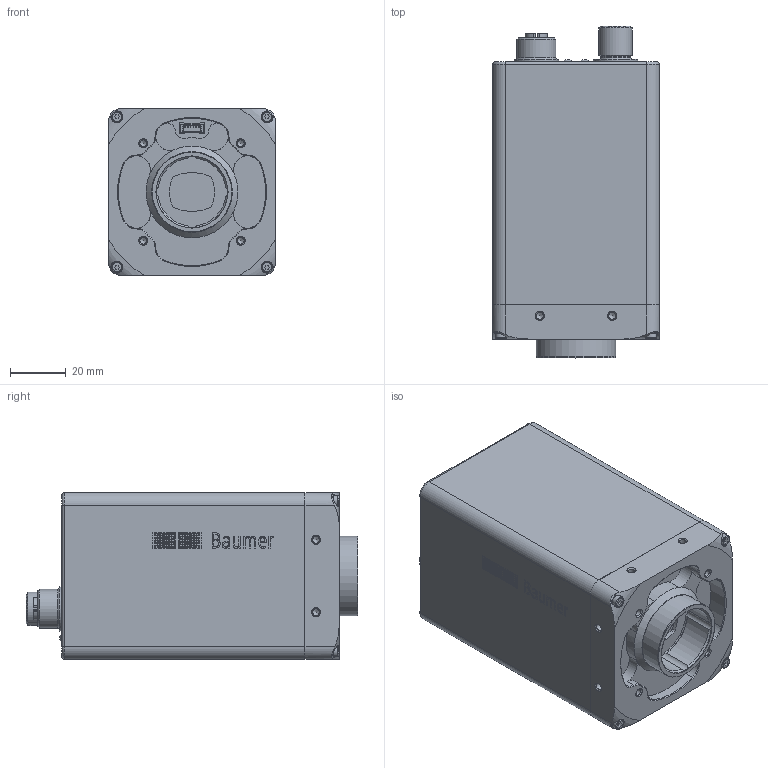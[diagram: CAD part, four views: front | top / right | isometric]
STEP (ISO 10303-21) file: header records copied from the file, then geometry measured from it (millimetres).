
FILE_DESCRIPTION( ( '11194256' ), '1' );
FILE_NAME( 'Z:/entw/Konstruktion/Mcad/Solid Edge/11190000/Step/11194256_VLXT-50C.I.stp', '180920', ( 'uge' ), ( 'Unknown' ), 'PSStep 19.0.9', 'Unknown', ' ' );
FILE_SCHEMA( ( 'AUTOMOTIVE_DESIGN { 1 0 10303 214 1 1 1 1 }' ) );
Length unit declared in the file: millimetre
Products named in the file (1): M12-ST-12S-A-PIP_2130000
Bounding box: 60 x 119.33 x 60 mm (x, y, z)
Volume: 347704.9 mm3; surface area: 40243.5 mm2
Topology: 1 solids, 7 shells, 1498 faces, 3378 edges, 2216 vertices
Faces by surface type: plane 674, cylinder 608, torus 71, cone 66, extrusion 56, sphere 16, bspline 7
Full cylindrical faces by diameter (mm): 0.306 x20, 0.385 x20, 0.464 x20, 0.542 x20, 0.621 x20, 0.63 x12, 0.699 x20, 0.7 x8, 0.778 x20, 0.856 x20, 1.24 x8, 2 x4, 2.4 x4, 2.459 x28, 2.8 x2, 2.92 x2, 3.4 x2, 3.8 x4, 4.975 x2, 8 x2, 8.25 x1, 8.3 x1, 9.3 x2, 9.4 x2, 10.75 x1, 11.7 x1, 12 x3, 14 x1, 16 x2, 25.7 x1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
Entity records: 56932 total; most frequent: CARTESIAN_POINT 12425, DIRECTION 6987, ORIENTED_EDGE 5832, EDGE_CURVE 2916, AXIS2_PLACEMENT_3D 2796, EDGE_LOOP 2203, VERTEX_POINT 2134, FACE_OUTER_BOUND 1797
